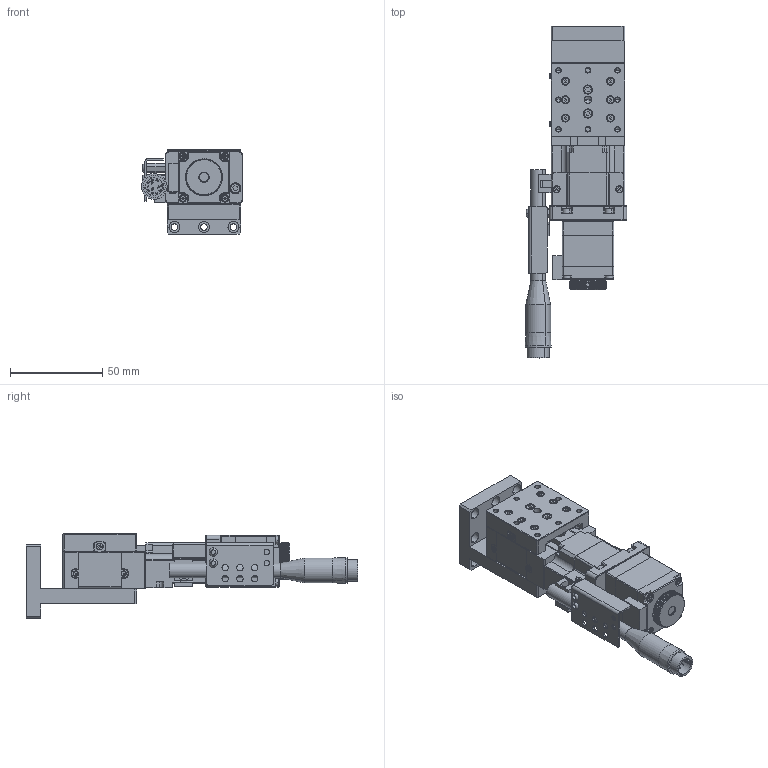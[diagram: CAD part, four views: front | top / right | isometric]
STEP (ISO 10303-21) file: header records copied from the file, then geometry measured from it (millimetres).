
FILE_DESCRIPTION (( 'STEP AP214' ), '1' );
FILE_NAME ('TZA4015B-L1-M28L.STEP', '2025-01-03T10:42:38', ( '' ), ( '' ), 'SwSTEP 2.0', 'SolidWorks 2020', '' );
FILE_SCHEMA (( 'AUTOMOTIVE_DESIGN' ));
Length unit declared in the file: millimetre
Products named in the file (1): TZA4015B-L1-M28L
Bounding box: 54.98 x 180 x 46 mm (x, y, z)
Volume: 122677.5 mm3; surface area: 68786.2 mm2
Topology: 66 solids, 66 shells, 3082 faces, 7599 edges, 4750 vertices
Faces by surface type: plane 1601, cylinder 793, cone 382, bspline 154, torus 148, sphere 4
Entity records: 132760 total; most frequent: CARTESIAN_POINT 25316, ORIENTED_EDGE 15038, DIRECTION 14901, EDGE_CURVE 7519, AXIS2_PLACEMENT_3D 5147, VERTEX_POINT 4750, LINE 4607, VECTOR 4607
